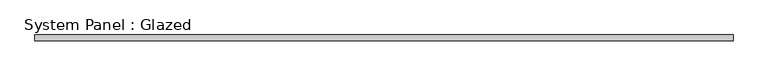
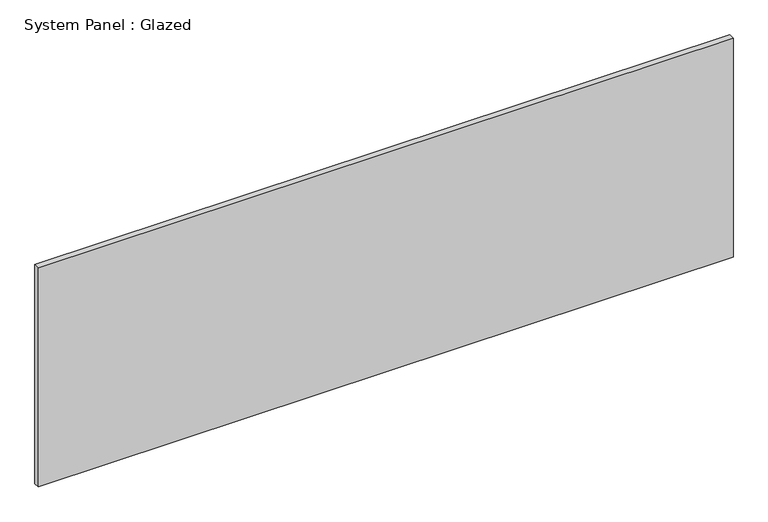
"""IFC4 building model written with IfcOpenShell, lengths in millimetres: plate geometry, System Panel : Glazed."""

from ifc_helpers import new_model, si_unit, origin, origin_with_axes, place, context, project, spatial, polyline, outline, extrude, source, transform, mapped, element, save


def system_panel_glazed_a2c5a472(model_context):
    return source(origin(), model_context, "Body", "SweptSolid", [
        extrude(outline(polyline([(1504.95, 19.05), (-1504.95, 19.05), (-1504.95, 44.45), (1504.95, 44.45), (1504.95, 19.05)])), origin_with_axes(), (0.0, 0.0, 1.0), 1003.3),
    ])


if __name__ == "__main__":
    model = new_model("IFC4")
    model_context = context("Model", 3, world=origin())
    ifc_project = project(units=[si_unit("LENGTHUNIT", "METRE", prefix="MILLI")], contexts=[model_context])
    site = spatial("IfcSite", under=ifc_project)
    building = spatial("IfcBuilding", under=site)
    placement = place(None, origin())
    system_panel_glazed_shape = system_panel_glazed_a2c5a472(model_context)
    element("IfcPlate", 1, ObjectType="System Panel : Glazed", at=placement, inside=building, context=model_context, shape_type="MappedRepresentation", body=[
        mapped(system_panel_glazed_shape, transform((0.0, 0.0, 0.0), x_axis=(1.0, 0.0, 0.0), y_axis=(0.0, 1.0, 0.0), z_axis=(0.0, 0.0, 1.0))),
    ])
    save(model, "model.ifc")
